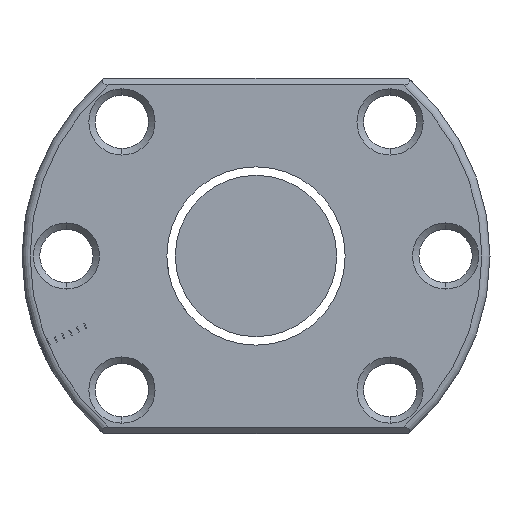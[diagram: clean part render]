
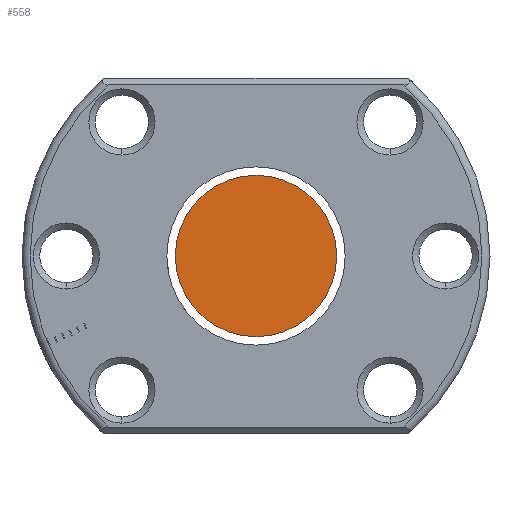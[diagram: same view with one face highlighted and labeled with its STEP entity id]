
A CAD part, left-side view. The second image highlights one B-rep face of the part: STEP entity #558.
In plain terms, the highlighted planar face has unit normal (-1, 0, 0).
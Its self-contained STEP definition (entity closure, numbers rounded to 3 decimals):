
#64 = CARTESIAN_POINT ( 'NONE',  ( -270., 0., -10. ) ) ;
#558 = ADVANCED_FACE ( 'NONE', ( #3213 ), #5442, .T. ) ;
#599 = EDGE_CURVE ( 'NONE', #2313, #4946, #3033, .T. ) ;
#679 = DIRECTION ( 'NONE',  ( -1., 0., 0. ) ) ;
#708 = DIRECTION ( 'NONE',  ( 1., 0., 0. ) ) ;
#967 = CARTESIAN_POINT ( 'NONE',  ( -270., 0., 0. ) ) ;
#1121 = AXIS2_PLACEMENT_3D ( 'NONE', #967, #1815, #2708 ) ;
#1737 = CARTESIAN_POINT ( 'NONE',  ( -270., 0., 10. ) ) ;
#1815 = DIRECTION ( 'NONE',  ( 1., 0., 0. ) ) ;
#2313 = VERTEX_POINT ( 'NONE', #1737 ) ;
#2324 = EDGE_CURVE ( 'NONE', #4946, #2313, #3580, .T. ) ;
#2510 = ORIENTED_EDGE ( 'NONE', *, *, #599, .F. ) ;
#2708 = DIRECTION ( 'NONE',  ( 0., 0., -1. ) ) ;
#2784 = CARTESIAN_POINT ( 'NONE',  ( -270., 0., 0. ) ) ;
#2933 = CARTESIAN_POINT ( 'NONE',  ( -270., 0., 0. ) ) ;
#3033 = CIRCLE ( 'NONE', #3578, 10. ) ;
#3092 = EDGE_LOOP ( 'NONE', ( #3898, #2510 ) ) ;
#3213 = FACE_OUTER_BOUND ( 'NONE', #3092, .T. ) ;
#3301 = AXIS2_PLACEMENT_3D ( 'NONE', #2784, #679, #4090 ) ;
#3578 = AXIS2_PLACEMENT_3D ( 'NONE', #2933, #708, #5104 ) ;
#3580 = CIRCLE ( 'NONE', #1121, 10. ) ;
#3898 = ORIENTED_EDGE ( 'NONE', *, *, #2324, .F. ) ;
#4090 = DIRECTION ( 'NONE',  ( 0., 0., 1. ) ) ;
#4946 = VERTEX_POINT ( 'NONE', #64 ) ;
#5104 = DIRECTION ( 'NONE',  ( 0., 0., -1. ) ) ;
#5442 = PLANE ( 'NONE',  #3301 ) ;
